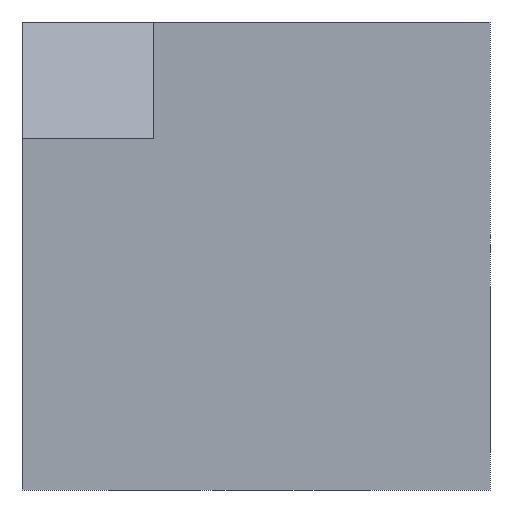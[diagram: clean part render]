
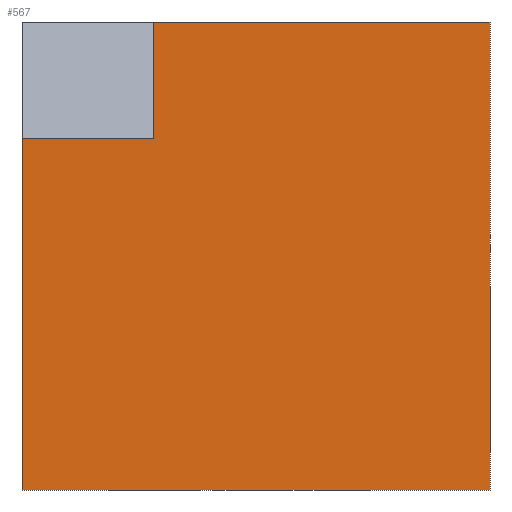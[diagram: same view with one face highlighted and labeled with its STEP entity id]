
A CAD part, front view. The second image highlights one B-rep face of the part: STEP entity #567.
In plain terms, the highlighted planar face has unit normal (0, -1, 0).
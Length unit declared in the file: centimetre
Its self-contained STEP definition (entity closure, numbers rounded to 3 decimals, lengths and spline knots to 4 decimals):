
#23 = FACE_OUTER_BOUND ( 'NONE', #713, .T. ) ;
#52 = ORIENTED_EDGE ( 'NONE', *, *, #617, .T. ) ;
#70 = ORIENTED_EDGE ( 'NONE', *, *, #229, .F. ) ;
#87 = CARTESIAN_POINT ( 'NONE',  ( 0., 0., 1000. ) ) ;
#104 = DIRECTION ( 'NONE',  ( 0., 0., 1. ) ) ;
#135 = ORIENTED_EDGE ( 'NONE', *, *, #139, .T. ) ;
#139 = EDGE_CURVE ( 'NONE', #497, #202, #622, .T. ) ;
#143 = LINE ( 'NONE', #737, #295 ) ;
#155 = LINE ( 'NONE', #630, #732 ) ;
#172 = AXIS2_PLACEMENT_3D ( 'NONE', #87, #224, #694 ) ;
#174 = LINE ( 'NONE', #365, #698 ) ;
#191 = VERTEX_POINT ( 'NONE', #591 ) ;
#202 = VERTEX_POINT ( 'NONE', #649 ) ;
#224 = DIRECTION ( 'NONE',  ( 0., 1., 0. ) ) ;
#229 = EDGE_CURVE ( 'NONE', #745, #402, #249, .T. ) ;
#249 = LINE ( 'NONE', #859, #420 ) ;
#264 = LINE ( 'NONE', #407, #501 ) ;
#281 = CARTESIAN_POINT ( 'NONE',  ( 0., 0., 1000. ) ) ;
#295 = VECTOR ( 'NONE', #742, 100. ) ;
#361 = ORIENTED_EDGE ( 'NONE', *, *, #373, .T. ) ;
#365 = CARTESIAN_POINT ( 'NONE',  ( 281.2778, 0., 750.6163 ) ) ;
#373 = EDGE_CURVE ( 'NONE', #854, #497, #264, .T. ) ;
#390 = ORIENTED_EDGE ( 'NONE', *, *, #716, .F. ) ;
#402 = VERTEX_POINT ( 'NONE', #551 ) ;
#407 = CARTESIAN_POINT ( 'NONE',  ( 281.2778, 0., 750.6163 ) ) ;
#420 = VECTOR ( 'NONE', #528, 100. ) ;
#435 = EDGE_CURVE ( 'NONE', #402, #191, #143, .T. ) ;
#439 = CARTESIAN_POINT ( 'NONE',  ( 281.2778, 0., 750.6163 ) ) ;
#448 = DIRECTION ( 'NONE',  ( -1., 0., 0. ) ) ;
#491 = ORIENTED_EDGE ( 'NONE', *, *, #435, .F. ) ;
#497 = VERTEX_POINT ( 'NONE', #810 ) ;
#501 = VECTOR ( 'NONE', #448, 100. ) ;
#528 = DIRECTION ( 'NONE',  ( 1., 0., 0. ) ) ;
#551 = CARTESIAN_POINT ( 'NONE',  ( 1000., 0., 1000. ) ) ;
#558 = DIRECTION ( 'NONE',  ( 1., 0., 0. ) ) ;
#567 = ADVANCED_FACE ( 'NONE', ( #23 ), #635, .F. ) ;
#582 = VECTOR ( 'NONE', #864, 100. ) ;
#584 = CARTESIAN_POINT ( 'NONE',  ( 281.2778, 0., 1000. ) ) ;
#591 = CARTESIAN_POINT ( 'NONE',  ( 1000., 0., 0. ) ) ;
#617 = EDGE_CURVE ( 'NONE', #202, #191, #155, .T. ) ;
#622 = LINE ( 'NONE', #281, #582 ) ;
#630 = CARTESIAN_POINT ( 'NONE',  ( 0., 0., 0. ) ) ;
#635 = PLANE ( 'NONE',  #172 ) ;
#649 = CARTESIAN_POINT ( 'NONE',  ( 0., 0., 0. ) ) ;
#694 = DIRECTION ( 'NONE',  ( 0., 0., 1. ) ) ;
#698 = VECTOR ( 'NONE', #104, 100. ) ;
#713 = EDGE_LOOP ( 'NONE', ( #390, #361, #135, #52, #491, #70 ) ) ;
#716 = EDGE_CURVE ( 'NONE', #854, #745, #174, .T. ) ;
#732 = VECTOR ( 'NONE', #558, 100. ) ;
#737 = CARTESIAN_POINT ( 'NONE',  ( 1000., 0., 1000. ) ) ;
#742 = DIRECTION ( 'NONE',  ( 0., 0., -1. ) ) ;
#745 = VERTEX_POINT ( 'NONE', #584 ) ;
#810 = CARTESIAN_POINT ( 'NONE',  ( 0., 0., 750.6163 ) ) ;
#854 = VERTEX_POINT ( 'NONE', #439 ) ;
#859 = CARTESIAN_POINT ( 'NONE',  ( 0., 0., 1000. ) ) ;
#864 = DIRECTION ( 'NONE',  ( 0., 0., -1. ) ) ;
